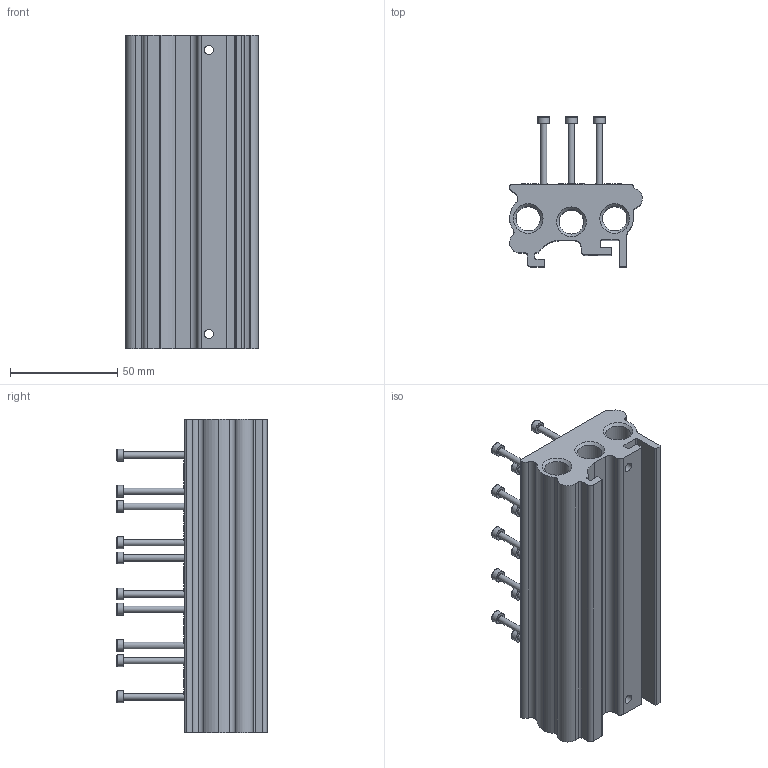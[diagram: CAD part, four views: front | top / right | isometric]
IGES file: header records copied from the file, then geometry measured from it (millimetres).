
Start section: SolidWorks IGES file using analytic representation for surfaces
Global section: file name: K:\Disegni Esecutivi\Elettrovalvole\ASSIEMI_IGS\01VB000005A.IGS; native system: SolidWorks 2012; preprocessor: SolidWorks 2012; author: cad05; date: 131003.184804; units: millimetre
Bounding box: 62.05 x 70.1 x 146.6 mm (x, y, z)
Surface area: 55733.3 mm2 (no closed solid volume)
Topology: 0 solids, 0 shells, 404 faces, 1890 edges, 1594 vertices
Faces by surface type: revolution 215, bspline 189
